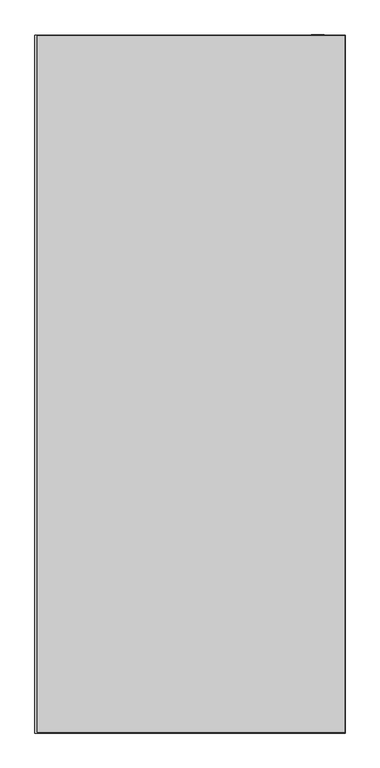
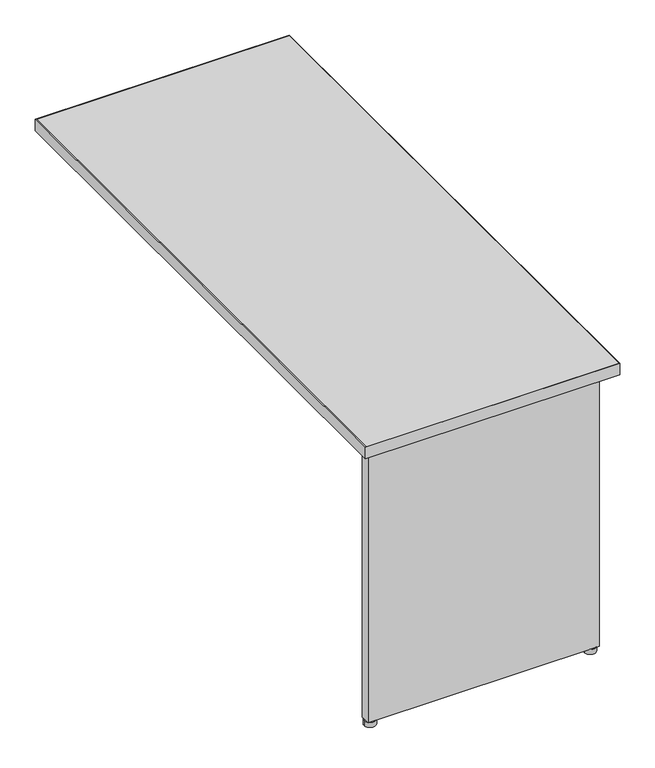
"""IFC4 building model written with IfcOpenShell, lengths in millimetres: furniture geometry, Steelcase - Kick Freestanding - Desk - Return - Partial Height Modesty Panel : 24D x 54W - Right."""

from ifc_helpers import new_model, si_unit, point, frame, frame_2d, origin, origin_with_axes, place, context, project, spatial, polyline, circle_curve, trimmed, segment, composite_curve, outline, extrude, source, transform, mapped, element, save


def furniture_b09fe170(model_context):
    return source(origin(), model_context, "Body", "SweptSolid", [
        extrude(outline(composite_curve([segment(trimmed(circle_curve(frame_2d((2107.4714425, -1893.0145152)), 13.97), [point((2121.4414425, -1893.0145152))], [point((2093.5014425, -1893.0145152))], False, "CARTESIAN"), True, "CONTINUOUS"), segment(trimmed(circle_curve(frame_2d((2107.4714425, -1893.0145152)), 13.97), [point((2093.5014425, -1893.0145152))], [point((2121.4414425, -1893.0145152))], False, "CARTESIAN"), True, "CONTINUOUS")], self_intersect=False)), origin_with_axes(), (0.0, 0.0, 1.0), 12.7),
        extrude(outline(composite_curve([segment(trimmed(circle_curve(frame_2d((1579.6594425, -1893.0145152)), 13.97), [point((1593.6294425, -1893.0145152))], [point((1565.6894425, -1893.0145152))], False, "CARTESIAN"), True, "CONTINUOUS"), segment(trimmed(circle_curve(frame_2d((1579.6594425, -1893.0145152)), 13.97), [point((1565.6894425, -1893.0145152))], [point((1593.6294425, -1893.0145152))], False, "CARTESIAN"), True, "CONTINUOUS")], self_intersect=False)), origin_with_axes(), (0.0, 0.0, 1.0), 12.7),
        extrude(outline(polyline([(2122.7114425, -1880.4669152), (2122.7114425, -1904.9525098), (1568.2294473, -1904.9525098), (1568.2294473, -1880.4669041), (1691.2670317, -1880.4669041), (1691.2670317, -1902.8951136), (1790.9874347, -1902.8951136), (1790.9874347, -1880.4669041), (1899.7248382, -1880.4669041), (1899.7248382, -1902.8951136), (1999.4452412, -1902.8951136), (1999.4452412, -1880.4669152), (2122.7114425, -1880.4669152)])), frame((0.0, 0.0, 12.7), z_axis=(0.0, 0.0, 1.0), x_axis=(1.0, 0.0, 0.0)), (0.0, 0.0, 1.0), 682.244),
        extrude(outline(polyline([(2097.3114424, -546.0525152), (2122.7114425, -546.0525152), (2122.7114425, -1880.4669152), (2097.3114424, -1880.4669152), (2097.3114424, -546.0525152)])), frame((0.0, 0.0, 390.144), z_axis=(0.0, 0.0, 1.0), x_axis=(1.0, 0.0, 0.0)), (0.0, 0.0, 1.0), 304.8),
        extrude(outline(polyline([(1558.5012257, -548.0845152), (2162.8688425, -548.0845152), (2162.8688425, -1917.1445152), (1558.5012257, -1917.1445152), (1558.5012257, -548.0845152)])), frame((0.0, 0.0, 694.944), z_axis=(0.0, 0.0, 1.0), x_axis=(1.0, 0.0, 0.0)), (0.0, 0.0, 1.0), 28.956),
        extrude(outline(polyline([(1554.2594425, -546.8145152), (2163.8594425, -546.8145152), (2163.8594425, -1918.4145152), (1554.2594425, -1918.4145152), (1554.2594425, -546.8145152)]), holes=[polyline([(1558.5012257, -548.0845152), (1558.5012257, -1917.1445152), (2162.8688425, -1917.1445152), (2162.8688425, -548.0845152), (1558.5012257, -548.0845152)])]), frame((0.0, 0.0, 694.944), z_axis=(0.0, 0.0, 1.0), x_axis=(1.0, 0.0, 0.0)), (0.0, 0.0, 1.0), 28.956),
    ])


if __name__ == "__main__":
    model = new_model("IFC4")
    model_context = context("Model", 3, world=origin())
    ifc_project = project(units=[si_unit("LENGTHUNIT", "METRE", prefix="MILLI")], contexts=[model_context])
    site = spatial("IfcSite", under=ifc_project)
    building = spatial("IfcBuilding", under=site)
    placement = place(None, origin())
    furniture_shape = furniture_b09fe170(model_context)
    element("IfcFurniture", 1, ObjectType="Steelcase - Kick Freestanding - Desk - Return - Partial Height Modesty Panel : 24D x 54W - Right", at=placement, inside=building, context=model_context, shape_type="MappedRepresentation", body=[
        mapped(furniture_shape, transform((0.0, 0.0, 0.0), x_axis=(1.0, 0.0, 0.0), y_axis=(0.0, 1.0, 0.0), z_axis=(0.0, 0.0, 1.0))),
    ])
    save(model, "model.ifc")
